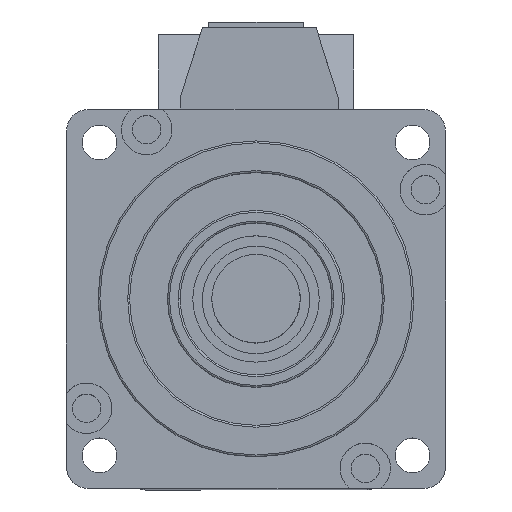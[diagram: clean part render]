
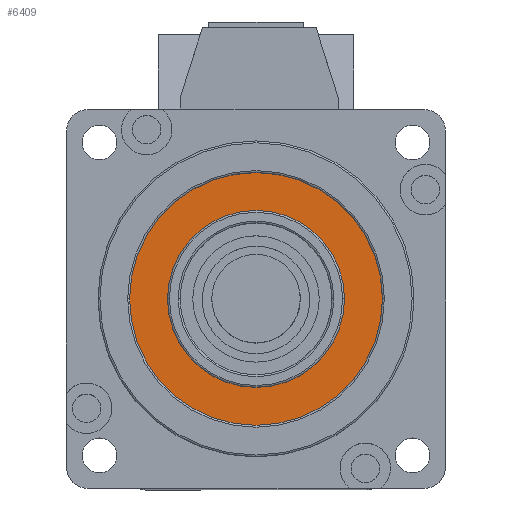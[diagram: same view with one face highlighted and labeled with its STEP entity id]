
A CAD part, top view. The second image highlights one B-rep face of the part: STEP entity #6409.
In plain terms, the highlighted planar face has unit normal (0, 0, 1).
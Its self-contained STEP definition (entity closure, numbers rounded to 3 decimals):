
#92 = CIRCLE ( 'NONE', #5191, 20. ) ;
#801 = CIRCLE ( 'NONE', #7865, 14. ) ;
#916 = VERTEX_POINT ( 'NONE', #6117 ) ;
#1111 = CARTESIAN_POINT ( 'NONE',  ( 30., 30., 0. ) ) ;
#1124 = CIRCLE ( 'NONE', #5950, 14. ) ;
#1551 = DIRECTION ( 'NONE',  ( 0., 0., 1. ) ) ;
#1684 = DIRECTION ( 'NONE',  ( 0., 0., -1. ) ) ;
#1766 = DIRECTION ( 'NONE',  ( 1., 0., 0. ) ) ;
#2489 = EDGE_CURVE ( 'NONE', #5124, #7086, #6865, .T. ) ;
#2713 = EDGE_CURVE ( 'NONE', #2932, #916, #801, .T. ) ;
#2932 = VERTEX_POINT ( 'NONE', #8644 ) ;
#3216 = ORIENTED_EDGE ( 'NONE', *, *, #3841, .F. ) ;
#3377 = DIRECTION ( 'NONE',  ( -1., 0., 0. ) ) ;
#3755 = CARTESIAN_POINT ( 'NONE',  ( 30., 30., 0. ) ) ;
#3841 = EDGE_CURVE ( 'NONE', #916, #2932, #1124, .T. ) ;
#3861 = FACE_OUTER_BOUND ( 'NONE', #5828, .T. ) ;
#4693 = DIRECTION ( 'NONE',  ( -1., 0., 0. ) ) ;
#4986 = ORIENTED_EDGE ( 'NONE', *, *, #2489, .T. ) ;
#5025 = AXIS2_PLACEMENT_3D ( 'NONE', #7682, #1684, #4693 ) ;
#5124 = VERTEX_POINT ( 'NONE', #7381 ) ;
#5191 = AXIS2_PLACEMENT_3D ( 'NONE', #5297, #5989, #6819 ) ;
#5297 = CARTESIAN_POINT ( 'NONE',  ( 30., 30., 0. ) ) ;
#5532 = DIRECTION ( 'NONE',  ( 0., 0., 1. ) ) ;
#5828 = EDGE_LOOP ( 'NONE', ( #8716, #4986 ) ) ;
#5950 = AXIS2_PLACEMENT_3D ( 'NONE', #1111, #5532, #3377 ) ;
#5989 = DIRECTION ( 'NONE',  ( 0., 0., 1. ) ) ;
#6085 = EDGE_LOOP ( 'NONE', ( #3216, #8978 ) ) ;
#6117 = CARTESIAN_POINT ( 'NONE',  ( 16., 30., 0. ) ) ;
#6142 = CARTESIAN_POINT ( 'NONE',  ( 30., 30., 0. ) ) ;
#6217 = PLANE ( 'NONE',  #5025 ) ;
#6409 = ADVANCED_FACE ( 'NONE', ( #3861, #7369 ), #6217, .F. ) ;
#6819 = DIRECTION ( 'NONE',  ( 1., 0., 0. ) ) ;
#6865 = CIRCLE ( 'NONE', #7229, 20. ) ;
#7086 = VERTEX_POINT ( 'NONE', #9543 ) ;
#7229 = AXIS2_PLACEMENT_3D ( 'NONE', #6142, #8424, #1766 ) ;
#7369 = FACE_BOUND ( 'NONE', #6085, .T. ) ;
#7381 = CARTESIAN_POINT ( 'NONE',  ( 50., 30., 0. ) ) ;
#7556 = EDGE_CURVE ( 'NONE', #7086, #5124, #92, .T. ) ;
#7682 = CARTESIAN_POINT ( 'NONE',  ( 3.5, 56.5, 0. ) ) ;
#7865 = AXIS2_PLACEMENT_3D ( 'NONE', #3755, #1551, #8261 ) ;
#8261 = DIRECTION ( 'NONE',  ( -1., 0., 0. ) ) ;
#8424 = DIRECTION ( 'NONE',  ( 0., 0., 1. ) ) ;
#8644 = CARTESIAN_POINT ( 'NONE',  ( 44., 30., 0. ) ) ;
#8716 = ORIENTED_EDGE ( 'NONE', *, *, #7556, .T. ) ;
#8978 = ORIENTED_EDGE ( 'NONE', *, *, #2713, .F. ) ;
#9543 = CARTESIAN_POINT ( 'NONE',  ( 10., 30., 0. ) ) ;
